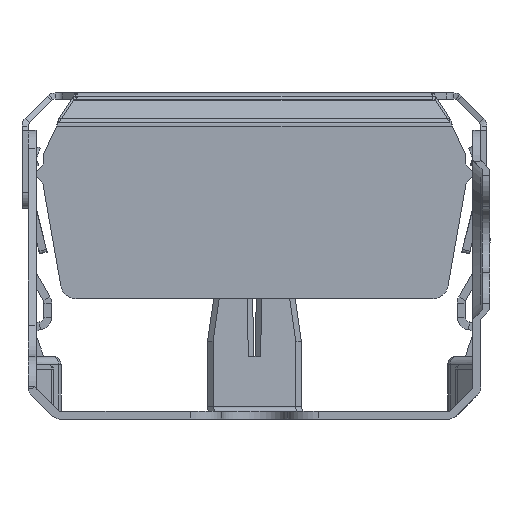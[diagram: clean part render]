
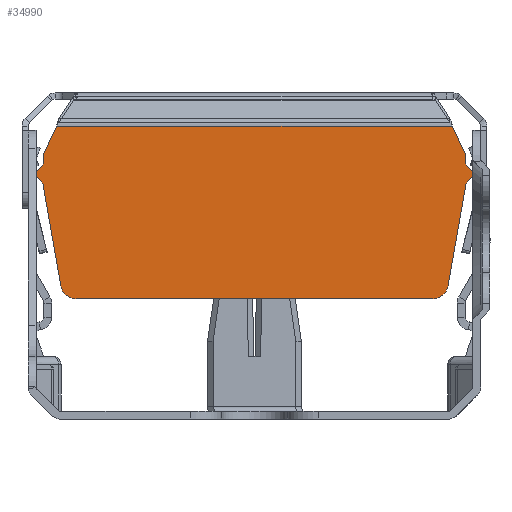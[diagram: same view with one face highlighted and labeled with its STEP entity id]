
A CAD part, front view. The second image highlights one B-rep face of the part: STEP entity #34990.
In plain terms, the highlighted planar face has unit normal (0, -1, 0) as drawn and (1, 0, 0) by its records, which use the part's own axes.
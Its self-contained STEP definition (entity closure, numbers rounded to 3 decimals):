
#33460=CARTESIAN_POINT('',(298.966,15.46,8.389
));
#33470=DIRECTION('',(-1.,0.,0.));
#33480=DIRECTION('',(0.,1.,0.));
#33490=AXIS2_PLACEMENT_3D('',#33460,#33470,#33480);
#33500=PLANE('',#33490);
#33510=CARTESIAN_POINT('',(298.966,26.566,4.15));
#33520=DIRECTION('',(0.,0.707,0.707));
#33530=VECTOR('',#33520,1.);
#33540=LINE('',#33510,#33530);
#33550=CARTESIAN_POINT('',(298.966,26.566,4.15));
#33560=VERTEX_POINT('',#33550);
#33570=CARTESIAN_POINT('',(298.966,27.066,4.65
));
#33580=VERTEX_POINT('',#33570);
#33590=EDGE_CURVE('',#33560,#33580,#33540,.T.);
#33600=ORIENTED_EDGE('',*,*,#33590,.T.);
#33610=CARTESIAN_POINT('',(298.966,26.566,4.15));
#33620=DIRECTION('',(0.,0.,-1.));
#33630=VECTOR('',#33620,1.);
#33640=LINE('',#33610,#33630);
#33650=CARTESIAN_POINT('',(298.966,26.566,3.464));
#33660=VERTEX_POINT('',#33650);
#33670=EDGE_CURVE('',#33560,#33660,#33640,.T.);
#33680=ORIENTED_EDGE('',*,*,#33670,.F.);
#33690=CARTESIAN_POINT('',(298.966,25.754,1.724
));
#33700=DIRECTION('',(0.,0.423,0.906));
#33710=VECTOR('',#33700,1.);
#33720=LINE('',#33690,#33710);
#33730=CARTESIAN_POINT('',(298.966,25.754,
1.724));
#33740=VERTEX_POINT('',#33730);
#33750=EDGE_CURVE('',#33740,#33660,#33720,.T.);
#33760=ORIENTED_EDGE('',*,*,#33750,.T.);
#33770=CARTESIAN_POINT('',(298.966,25.754,1.724)
);
#33780=DIRECTION('',(0.,-1.,0.));
#33790=VECTOR('',#33780,1.);
#33800=LINE('',#33770,#33790);
#33810=CARTESIAN_POINT('',(298.966,0.377,1.724)
);
#33820=VERTEX_POINT('',#33810);
#33830=EDGE_CURVE('',#33740,#33820,#33800,.T.);
#33840=ORIENTED_EDGE('',*,*,#33830,.F.);
#33850=CARTESIAN_POINT('',(298.966,-0.434,
3.464));
#33860=DIRECTION('',(0.,0.423,-0.906));
#33870=VECTOR('',#33860,1.);
#33880=LINE('',#33850,#33870);
#33890=CARTESIAN_POINT('',(298.966,-0.434,
3.464));
#33900=VERTEX_POINT('',#33890);
#33910=EDGE_CURVE('',#33900,#33820,#33880,.T.);
#33920=ORIENTED_EDGE('',*,*,#33910,.T.);
#33930=CARTESIAN_POINT('',(298.966,-0.434,
3.464));
#33940=DIRECTION('',(0.,0.,1.));
#33950=VECTOR('',#33940,1.);
#33960=LINE('',#33930,#33950);
#33970=CARTESIAN_POINT('',(298.966,-0.434,
4.15));
#33980=VERTEX_POINT('',#33970);
#33990=EDGE_CURVE('',#33900,#33980,#33960,.T.);
#34000=ORIENTED_EDGE('',*,*,#33990,.F.);
#34010=CARTESIAN_POINT('',(298.966,-1.084,4.8));
#34020=DIRECTION('',(0.,0.707,-0.707));
#34030=VECTOR('',#34020,1.);
#34040=LINE('',#34010,#34030);
#34050=CARTESIAN_POINT('',(298.966,-0.934,
4.65));
#34060=VERTEX_POINT('',#34050);
#34070=EDGE_CURVE('',#34060,#33980,#34040,.T.);
#34080=ORIENTED_EDGE('',*,*,#34070,.T.);
#34090=CARTESIAN_POINT('',(298.966,-0.934,0.));
#34100=DIRECTION('',(0.,0.,-1.));
#34110=VECTOR('',#34100,1.);
#34120=LINE('',#34090,#34110);
#34130=CARTESIAN_POINT('',(298.966,-0.934,
4.95));
#34140=VERTEX_POINT('',#34130);
#34150=EDGE_CURVE('',#34140,#34060,#34120,.T.);
#34160=ORIENTED_EDGE('',*,*,#34150,.T.);
#34170=CARTESIAN_POINT('',(298.966,-0.434,
5.45));
#34180=DIRECTION('',(0.,-0.707,-0.707));
#34190=VECTOR('',#34180,1.);
#34200=LINE('',#34170,#34190);
#34210=CARTESIAN_POINT('',(298.966,-0.434,
5.45));
#34220=VERTEX_POINT('',#34210);
#34230=EDGE_CURVE('',#34220,#34140,#34200,.T.);
#34240=ORIENTED_EDGE('',*,*,#34230,.T.);
#34250=CARTESIAN_POINT('',(298.966,-0.434,
5.45));
#34260=DIRECTION('',(0.,0.,1.));
#34270=VECTOR('',#34260,1.);
#34280=LINE('',#34250,#34270);
#34290=CARTESIAN_POINT('',(298.966,-0.434,
5.8));
#34300=VERTEX_POINT('',#34290);
#34310=EDGE_CURVE('',#34220,#34300,#34280,.T.);
#34320=ORIENTED_EDGE('',*,*,#34310,.F.);
#34330=CARTESIAN_POINT('',(298.966,0.654,
11.974));
#34340=DIRECTION('',(0.,-0.174,-0.985));
#34350=VECTOR('',#34340,1.);
#34360=LINE('',#34330,#34350);
#34370=CARTESIAN_POINT('',(298.966,0.654,
11.974));
#34380=VERTEX_POINT('',#34370);
#34390=EDGE_CURVE('',#34380,#34300,#34360,.T.);
#34400=ORIENTED_EDGE('',*,*,#34390,.T.);
#34410=CARTESIAN_POINT('',(298.966,1.639,11.8));
#34420=DIRECTION('',(1.,0.,0.));
#34430=DIRECTION('',(0.,0.,1.));
#34440=AXIS2_PLACEMENT_3D('',#34410,#34420,#34430);
#34450=CIRCLE('',#34440,1.);
#34460=CARTESIAN_POINT('',(298.966,1.639,12.8));
#34470=VERTEX_POINT('',#34460);
#34480=EDGE_CURVE('',#34470,#34380,#34450,.T.);
#34490=ORIENTED_EDGE('',*,*,#34480,.T.);
#34500=CARTESIAN_POINT('',(298.966,24.492,12.8));
#34510=DIRECTION('',(0.,-1.,0.));
#34520=VECTOR('',#34510,1.);
#34530=LINE('',#34500,#34520);
#34540=CARTESIAN_POINT('',(298.966,24.492,12.8));
#34550=VERTEX_POINT('',#34540);
#34560=EDGE_CURVE('',#34550,#34470,#34530,.T.);
#34570=ORIENTED_EDGE('',*,*,#34560,.T.);
#34580=CARTESIAN_POINT('',(298.966,24.492,11.8));
#34590=DIRECTION('',(1.,0.,0.));
#34600=DIRECTION('',(0.,0.985,0.174));
#34610=AXIS2_PLACEMENT_3D('',#34580,#34590,#34600);
#34620=CIRCLE('',#34610,1.);
#34630=CARTESIAN_POINT('',(298.966,25.477,11.974)
);
#34640=VERTEX_POINT('',#34630);
#34650=EDGE_CURVE('',#34640,#34550,#34620,.T.);
#34660=ORIENTED_EDGE('',*,*,#34650,.T.);
#34670=CARTESIAN_POINT('',(298.966,26.566,5.8));
#34680=DIRECTION('',(0.,-0.174,0.985));
#34690=VECTOR('',#34680,1.);
#34700=LINE('',#34670,#34690);
#34710=CARTESIAN_POINT('',(298.966,26.566,5.8));
#34720=VERTEX_POINT('',#34710);
#34730=EDGE_CURVE('',#34720,#34640,#34700,.T.);
#34740=ORIENTED_EDGE('',*,*,#34730,.T.);
#34750=CARTESIAN_POINT('',(298.966,26.566,5.8));
#34760=DIRECTION('',(0.,0.,-1.));
#34770=VECTOR('',#34760,1.);
#34780=LINE('',#34750,#34770);
#34790=CARTESIAN_POINT('',(298.966,26.566,5.45));
#34800=VERTEX_POINT('',#34790);
#34810=EDGE_CURVE('',#34720,#34800,#34780,.T.);
#34820=ORIENTED_EDGE('',*,*,#34810,.F.);
#34830=CARTESIAN_POINT('',(298.966,27.216,4.8));
#34840=DIRECTION('',(0.,-0.707,0.707));
#34850=VECTOR('',#34840,1.);
#34860=LINE('',#34830,#34850);
#34870=CARTESIAN_POINT('',(298.966,27.066,4.95
));
#34880=VERTEX_POINT('',#34870);
#34890=EDGE_CURVE('',#34880,#34800,#34860,.T.);
#34900=ORIENTED_EDGE('',*,*,#34890,.T.);
#34910=CARTESIAN_POINT('',(298.966,27.066,0.));
#34920=DIRECTION('',(0.,0.,-1.));
#34930=VECTOR('',#34920,1.);
#34940=LINE('',#34910,#34930);
#34950=EDGE_CURVE('',#34880,#33580,#34940,.T.);
#34960=ORIENTED_EDGE('',*,*,#34950,.F.);
#34970=EDGE_LOOP('',(#34960,#34900,#34820,#34740,#34660,#34570,#34490,
#34400,#34320,#34240,#34160,#34080,#34000,#33920,#33840,#33760,#33680,
#33600));
#34980=FACE_OUTER_BOUND('',#34970,.T.);
#34990=ADVANCED_FACE('',(#34980),#33500,.F.);
